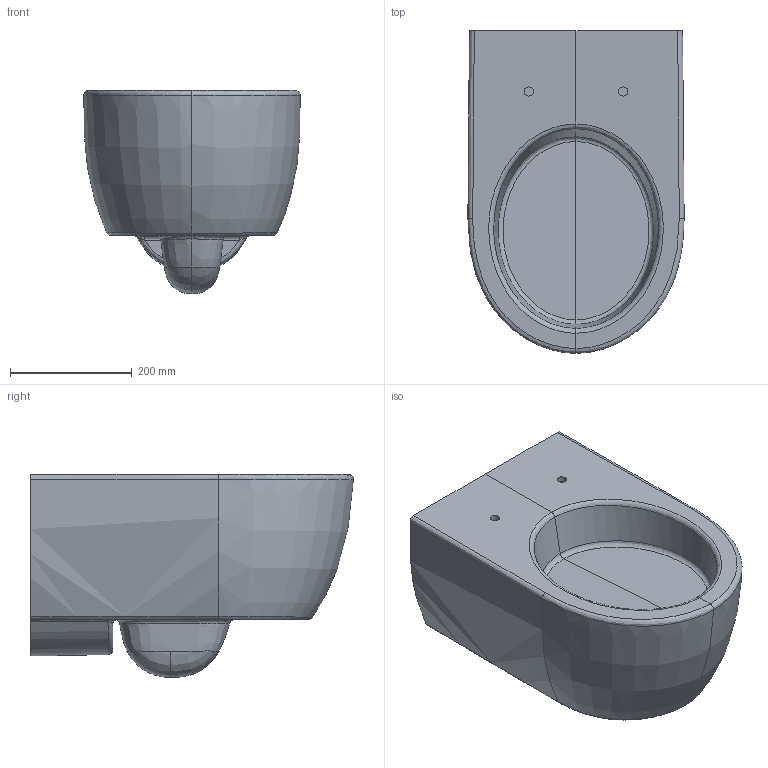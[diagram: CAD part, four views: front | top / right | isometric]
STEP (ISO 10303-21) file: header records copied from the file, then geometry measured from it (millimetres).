
FILE_DESCRIPTION(/* description */ (''),/* implementation_level */ '2;1');
FILE_NAME(/* name */ 'C:\Planerdaten\Export PLA\204060000\stp\204060000.stp',/* time_stamp */ '2020-05-29T12:50:20+02:00',/* author */ ('JANAN'),/* organization */ (''),/* preprocessor_version */ 'ST-DEVELOPER v16.13',/* originating_system */ 'Autodesk Inventor 2018',/* authorisation */ '');
FILE_SCHEMA (('AUTOMOTIVE_DESIGN { 1 0 10303 214 3 1 1 }'));
Length unit declared in the file: millimetre
Products named in the file (1): WWC-T Ge+iCn T53 Rfree
Bounding box: 355.03 x 529.98 x 333.35 mm (x, y, z)
Volume: 34612695.2 mm3; surface area: 760717 mm2
Topology: 1 solids, 1 shells, 56 faces, 122 edges, 74 vertices
Faces by surface type: bspline 35, plane 14, cylinder 7
Full cylindrical faces by diameter (mm): 15 x2, 42 x2, 54.5 x1, 86 x1
Entity records: 11132 total; most frequent: CARTESIAN_POINT 10050, ORIENTED_EDGE 228, DIRECTION 128, EDGE_CURVE 114, VERTEX_POINT 72, EDGE_LOOP 68, B_SPLINE_CURVE_WITH_KNOTS 64, STYLED_ITEM 57
